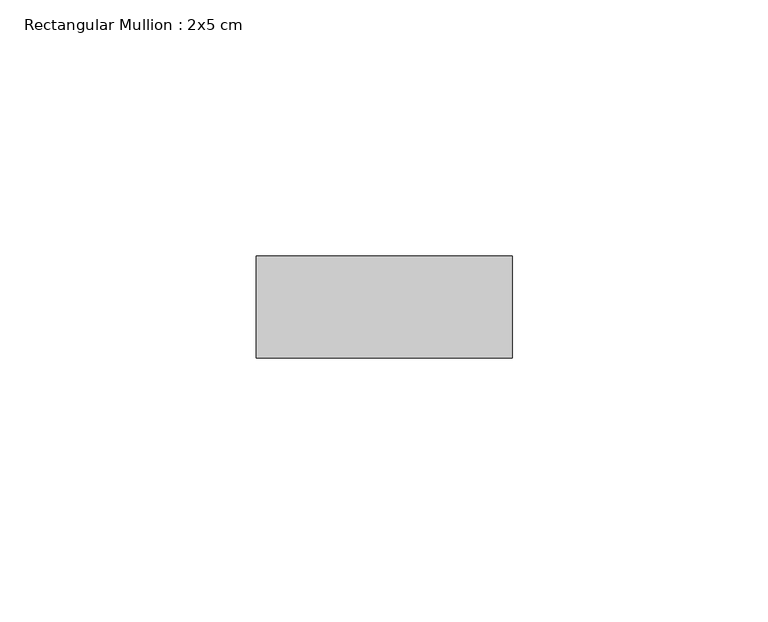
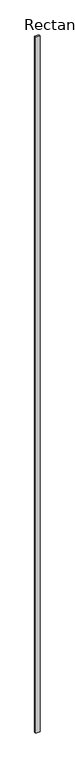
"""IFC4 building model written with IfcOpenShell, lengths in millimetres: member geometry, Rectangular Mullion : 2x5 cm."""

import ifcopenshell
import ifcopenshell.guid

model = None  # the IFC model being written
_history = None  # IfcOwnerHistory: only IFC2X3 demands one
_inside = {}  # id of a spatial element -> (the spatial element, [elements in it])
_under = {}  # id of a project, library or spatial element -> (it, [spatial elements below it])
_declared = {}  # id of a project -> (the project, [libraries it declares])
_typed = {}  # id of a type object -> (the type object, [elements of that type])
_made_of = {}  # id of a material, layer set ... -> (it, [elements and type objects made of it])


def new_model(schema):
    """Start an empty IFC model of exactly this schema.

    Asked for "IFC4X3", IfcOpenShell would pick the latest addendum, in which some entities
    have other attributes; the version numbers below select the first issue.
    IFC2X3 requires an IfcOwnerHistory on every rooted entity: one is made here for all.
    """
    global model, _history
    if schema == "IFC4X3":
        model = ifcopenshell.file(schema_version=(4, 3, 0, 0))
    else:
        model = ifcopenshell.file(schema=schema)
    _inside.clear()
    _under.clear()
    _declared.clear()
    _typed.clear()
    _made_of.clear()
    _history = None
    if model.schema == "IFC2X3":
        org = make("IfcOrganization", Name="unknown")
        user = make(
            "IfcPersonAndOrganization",
            ThePerson=make("IfcPerson", FamilyName="unknown"),
            TheOrganization=org,
        )
        app = make(
            "IfcApplication",
            ApplicationDeveloper=org,
            Version="unknown",
            ApplicationFullName="unknown",
            ApplicationIdentifier="unknown",
        )
        _history = make(
            "IfcOwnerHistory",
            OwningUser=user,
            OwningApplication=app,
            ChangeAction="ADDED",
            CreationDate=0,
        )
    return model


def make(cls, **values):
    """One entity of the class cls with the attributes given. An attribute that is None is left unset."""
    return model.create_entity(
        cls, **{name: value for name, value in values.items() if value is not None}
    )


def rooted(cls, **values):
    """An entity with a GlobalId (a new one), such as an element, a storey or a relation."""
    return make(cls, GlobalId=ifcopenshell.guid.new(), OwnerHistory=_history, **values)


def si_unit(unit_type, name, prefix=None):
    """IfcSIUnit, for example si_unit("LENGTHUNIT", "METRE", prefix="MILLI")."""
    return make("IfcSIUnit", UnitType=unit_type, Prefix=prefix, Name=name)


def assignment(units):
    """IfcUnitAssignment: the units of a project."""
    return None if units is None else make("IfcUnitAssignment", Units=units)


def point(xyz):
    """IfcCartesianPoint."""
    return None if xyz is None else make("IfcCartesianPoint", Coordinates=xyz)


def direction(xyz):
    """IfcDirection."""
    return None if xyz is None else make("IfcDirection", DirectionRatios=xyz)


def frame(location, z_axis=None, x_axis=None):
    """IfcAxis2Placement3D, a coordinate frame: its origin and axes. An axis left out is left unset."""
    return make(
        "IfcAxis2Placement3D",
        Location=point(location),
        Axis=direction(z_axis),
        RefDirection=direction(x_axis),
    )


def origin():
    """The frame at (0, 0, 0) with its axes left unset."""
    return frame((0.0, 0.0, 0.0))


def place(relative_to, where):
    """IfcLocalPlacement: puts the frame where relative to a parent placement (None: the world)."""
    return make(
        "IfcLocalPlacement", PlacementRelTo=relative_to, RelativePlacement=where
    )


def context(
    kind, dimensions, precision=None, world=None, true_north=None, identifier=None
):
    """IfcGeometricRepresentationContext, for example the 3D "Model" context."""
    return make(
        "IfcGeometricRepresentationContext",
        ContextIdentifier=identifier,
        ContextType=kind,
        CoordinateSpaceDimension=dimensions,
        Precision=precision,
        WorldCoordinateSystem=world,
        TrueNorth=true_north,
    )


def project(units=None, contexts=None):
    """IfcProject with its units and contexts."""
    return rooted(
        "IfcProject",
        Name="project",
        RepresentationContexts=contexts,
        UnitsInContext=assignment(units),
    )


def spatial(cls, under=None, at=None, **own):
    """A site, building, storey or space (cls), placed at a placement, below another one or the project."""
    s = rooted(cls, ObjectPlacement=at, **own)
    if under is not None:
        _under.setdefault(under.id(), (under, []))[1].append(s)
    return s


def polyline(points):
    """IfcPolyline through the points."""
    return make("IfcPolyline", Points=[point(p) for p in points])


def outline(outer, holes=None, kind="AREA"):
    """IfcArbitraryClosedProfileDef: a profile drawn as a closed curve; with holes, ...WithVoids."""
    if holes is None:
        return make("IfcArbitraryClosedProfileDef", ProfileType=kind, OuterCurve=outer)
    return make(
        "IfcArbitraryProfileDefWithVoids",
        ProfileType=kind,
        OuterCurve=outer,
        InnerCurves=holes,
    )


def extrude(swept, where, along, depth):
    """IfcExtrudedAreaSolid: the profile swept, set in the frame where, extruded along a direction by depth."""
    return make(
        "IfcExtrudedAreaSolid",
        SweptArea=swept,
        Position=where,
        ExtrudedDirection=direction(along),
        Depth=depth,
    )


def shape(context_of_items, identifier, shape_type, items):
    """IfcShapeRepresentation: the items that make up one representation, for example the "Body"."""
    return make(
        "IfcShapeRepresentation",
        ContextOfItems=context_of_items,
        RepresentationIdentifier=identifier,
        RepresentationType=shape_type,
        Items=items,
    )


def source(mapping_origin, context_of_items, identifier, shape_type, items):
    """IfcRepresentationMap: a shape defined once, which mapped items show again and again."""
    return make(
        "IfcRepresentationMap",
        MappingOrigin=mapping_origin,
        MappedRepresentation=shape(context_of_items, identifier, shape_type, items),
    )


def transform(
    local_origin,
    x_axis=None,
    y_axis=None,
    z_axis=None,
    scale=None,
    scale2=None,
    scale3=None,
    uniform=True,
):
    """IfcCartesianTransformationOperator3D, or its non-uniform kind. x_axis, y_axis, z_axis: its Axis1, 2, 3."""
    if uniform:
        return make(
            "IfcCartesianTransformationOperator3D",
            Axis1=direction(x_axis),
            Axis2=direction(y_axis),
            LocalOrigin=point(local_origin),
            Scale=scale,
            Axis3=direction(z_axis),
        )
    return make(
        "IfcCartesianTransformationOperator3DnonUniform",
        Axis1=direction(x_axis),
        Axis2=direction(y_axis),
        LocalOrigin=point(local_origin),
        Scale=scale,
        Axis3=direction(z_axis),
        Scale2=scale2,
        Scale3=scale3,
    )


def mapped(mapping_source, mapping_target):
    """IfcMappedItem: shows the shape of a source again, moved by a transform."""
    return make(
        "IfcMappedItem", MappingSource=mapping_source, MappingTarget=mapping_target
    )


def made_of(thing, what):
    """Note that an element or type object is made of a material, layer set ...; save() writes the relation."""
    if what is not None:
        _made_of.setdefault(what.id(), (what, []))[1].append(thing)
    return thing


def element(
    cls,
    number,
    at=None,
    inside=None,
    cuts=None,
    type_object=None,
    material=None,
    context=None,
    identifier="Body",
    shape_type=None,
    held_by="IfcProductDefinitionShape",
    body=None,
    shapes=None,
    **own,
):
    """One element of the class cls, such as IfcWall. Its Tag is "e" and its number.

    at: its placement. inside: the storey or other place that contains it. cuts: it is an
    opening in that element (IfcRelVoidsElement). A single representation is given by context,
    identifier, shape_type and body (its items); several are given by shapes. held_by: the class
    of the entity that holds the representations. save() writes the other relations.
    """
    e = rooted(cls, Tag="e%d" % number, ObjectPlacement=at, **own)
    if body is not None:
        shapes = [shape(context, identifier, shape_type, body)]
    if shapes is not None:
        e.Representation = make(held_by, Representations=shapes)
    if inside is not None:
        _inside.setdefault(inside.id(), (inside, []))[1].append(e)
    if cuts is not None:
        rooted(
            "IfcRelVoidsElement", RelatingBuildingElement=cuts, RelatedOpeningElement=e
        )
    if type_object is not None:
        _typed.setdefault(type_object.id(), (type_object, []))[1].append(e)
    return made_of(e, material)


def aggregate(whole, parts):
    """IfcRelAggregates: a whole, such as a stair, and the parts it consists of."""
    return rooted("IfcRelAggregates", RelatingObject=whole, RelatedObjects=parts)


def save(model, path):
    """Write the relations noted so far, then the file.

    IfcRelAggregates (storeys below a building ...), IfcRelContainedInSpatialStructure (elements
    in a storey), IfcRelDefinesByType, IfcRelAssociatesMaterial and IfcRelDeclares: one each for
    every whole, place, type object, material and project.
    """
    for whole, parts in _under.values():
        aggregate(whole, parts)
    for where, things in _inside.values():
        rooted(
            "IfcRelContainedInSpatialStructure",
            RelatedElements=things,
            RelatingStructure=where,
        )
    for kind, things in _typed.values():
        rooted("IfcRelDefinesByType", RelatedObjects=things, RelatingType=kind)
    for what, things in _made_of.values():
        rooted("IfcRelAssociatesMaterial", RelatedObjects=things, RelatingMaterial=what)
    for by, libraries in _declared.values():
        rooted("IfcRelDeclares", RelatingContext=by, RelatedDefinitions=libraries)
    model.write(path)


def rectangular_mullion_2x5_cm_15099931(model_context):
    return source(origin(), model_context, "Body", "SweptSolid", [
        extrude(outline(polyline([(50.0, 20.0), (50.0, 0.0), (0.0, 0.0), (0.0, 20.0), (50.0, 20.0)])), frame((0.0, 0.0, -8701.3480001), z_axis=(0.0, 0.0, 1.0), x_axis=(1.0, 0.0, 0.0)), (0.0, 0.0, 1.0), 8701.3480001),
    ])


if __name__ == "__main__":
    model = new_model("IFC4")
    model_context = context("Model", 3, world=origin())
    ifc_project = project(units=[si_unit("LENGTHUNIT", "METRE", prefix="MILLI")], contexts=[model_context])
    site = spatial("IfcSite", under=ifc_project)
    building = spatial("IfcBuilding", under=site)
    placement = place(None, origin())
    rectangular_mullion_2x5_cm_shape = rectangular_mullion_2x5_cm_15099931(model_context)
    element("IfcMember", 1, ObjectType="Rectangular Mullion : 2x5 cm", at=placement, inside=building, context=model_context, shape_type="MappedRepresentation", body=[
        mapped(rectangular_mullion_2x5_cm_shape, transform((0.0, 0.0, 0.0), x_axis=(1.0, 0.0, 0.0), y_axis=(0.0, 1.0, 0.0), z_axis=(0.0, 0.0, 1.0))),
    ])
    save(model, "model.ifc")
